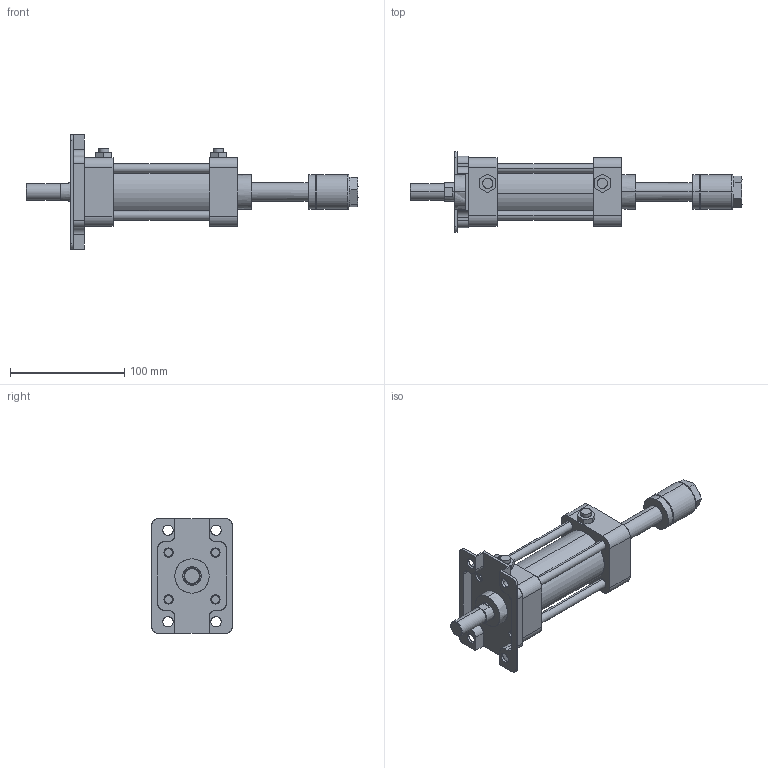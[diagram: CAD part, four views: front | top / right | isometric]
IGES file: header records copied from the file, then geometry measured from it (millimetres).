
Start section: SolidWorks IGES file using analytic representation for surfaces
Global section: file name: C:\Users\Toshiba\Desktop\KGA7-40#-50-A.IGS; native system: SolidWorks 2014; preprocessor: SolidWorks 2014; author: Toshiba; date: 160414.154722; units: millimetre
Bounding box: 290 x 70 x 100 mm (x, y, z)
Surface area: 114880 mm2 (no closed solid volume)
Topology: 0 solids, 0 shells, 479 faces, 7533 edges, 7499 vertices
Faces by surface type: revolution 242, bspline 237
